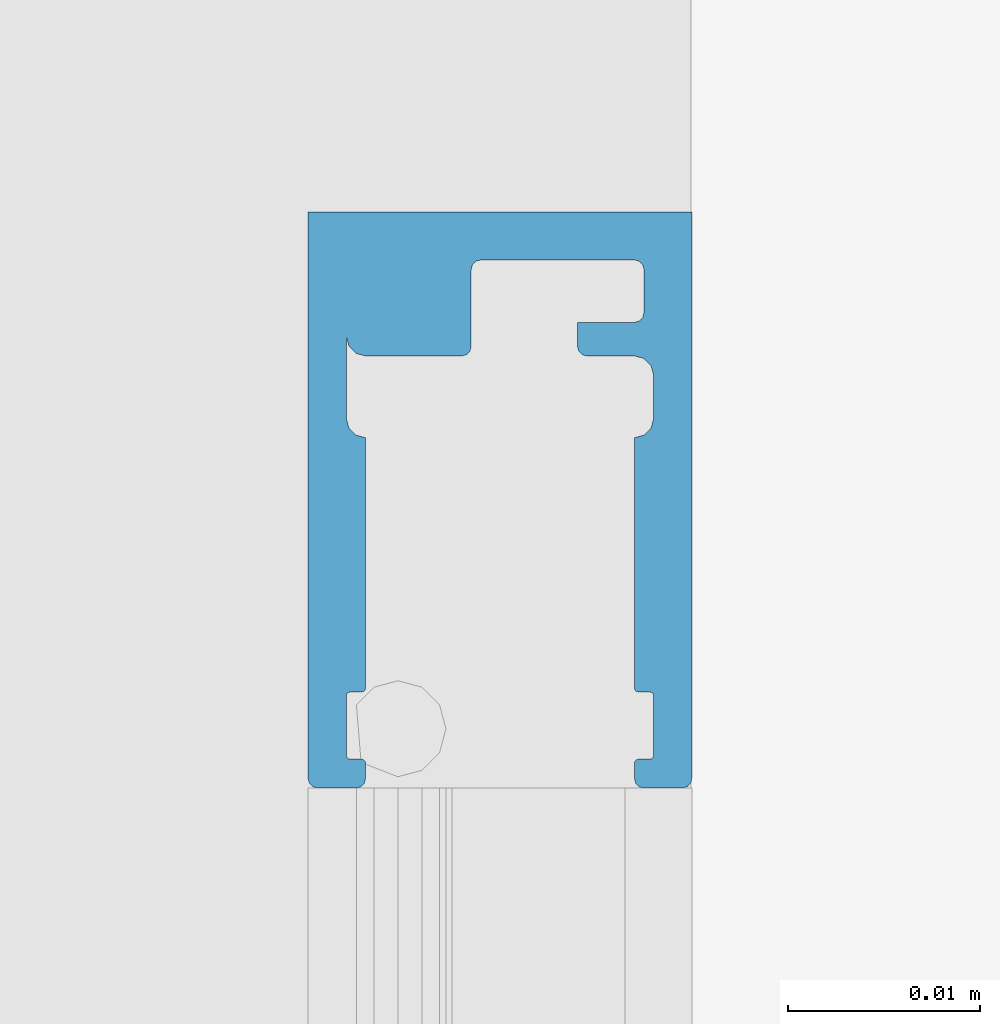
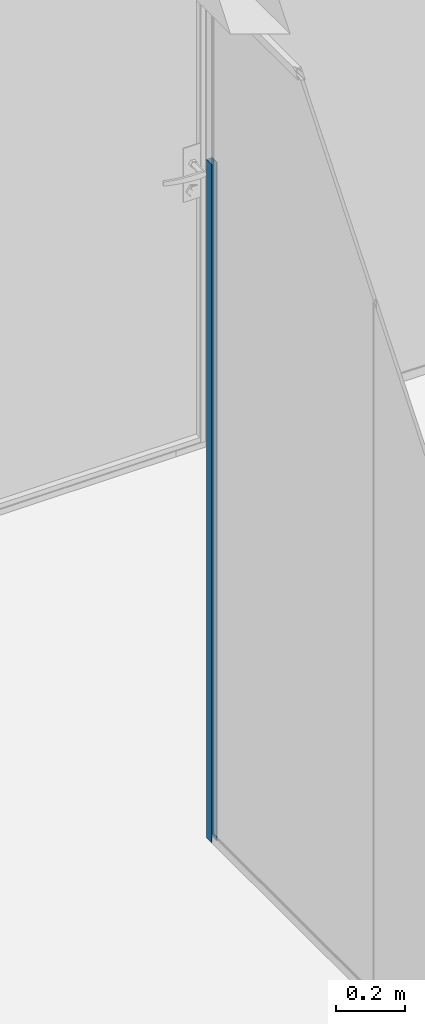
# One storey, part 54 of 387: 1 building element part, 2 elements without a shape of their own.
"""IFC2X3 building model written with IfcOpenShell, lengths in millimetres."""

from ifc_helpers import new_model, entity, si_unit, converted_unit, derived_unit, money_unit, direction, frame, origin_with_axes, place, context, subcontext, project, spatial, faceted_brep, source, transform, mapped, material, type_object, element, aggregate, save


model = new_model("IFC2X3")

# Units and contexts
model_context = context("Model", 3, precision=0.01, world=origin_with_axes(), true_north=direction((0.0, 1.0)))
body_context = subcontext(model_context, "Body", "Model", "MODEL_VIEW")
ifc_project = project(units=[si_unit("LENGTHUNIT", "METRE", prefix="MILLI"), si_unit("AREAUNIT", "SQUARE_METRE"), si_unit("VOLUMEUNIT", "CUBIC_METRE"), converted_unit("PLANEANGLEUNIT", "DEGREE", entity("IfcPlaneAngleMeasure", 0.0174532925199), si_unit("PLANEANGLEUNIT", "RADIAN"), dimensions=[0, 0, 0, 0, 0, 0, 0]), si_unit("SOLIDANGLEUNIT", "STERADIAN"), money_unit("EUR"), converted_unit("TIMEUNIT", "Year", entity("IfcTimeMeasure", 31556926.0), si_unit("TIMEUNIT", "SECOND"), dimensions=[0, 0, 1, 0, 0, 0, 0]), si_unit("MASSUNIT", "GRAM", prefix="KILO"), si_unit("THERMODYNAMICTEMPERATUREUNIT", "DEGREE_CELSIUS"), si_unit("LUMINOUSINTENSITYUNIT", "LUMEN"), si_unit("ENERGYUNIT", "JOULE", prefix="MEGA"), derived_unit("THERMALCONDUCTANCEUNIT", [(si_unit("POWERUNIT", "WATT"), 1), (si_unit("LENGTHUNIT", "METRE"), -1), (si_unit("THERMODYNAMICTEMPERATUREUNIT", "KELVIN"), -1)]), derived_unit("SPECIFICHEATCAPACITYUNIT", [(si_unit("ENERGYUNIT", "JOULE"), 1), (si_unit("MASSUNIT", "GRAM", prefix="KILO"), -1), (si_unit("THERMODYNAMICTEMPERATUREUNIT", "KELVIN"), -1)]), derived_unit("MASSDENSITYUNIT", [(si_unit("MASSUNIT", "GRAM", prefix="KILO"), 1), (si_unit("VOLUMEUNIT", "CUBIC_METRE"), -1)])], contexts=[model_context])

# Site, building, storey
site_placement = place(None, origin_with_axes())
site = spatial("IfcSite", under=ifc_project, at=site_placement, Name="Puškini 31, Narva", CompositionType="ELEMENT")
building_placement = place(site_placement, origin_with_axes())
building = spatial("IfcBuilding", under=site, at=building_placement, Name="Narva Riigigümnaasium", CompositionType="ELEMENT")
storey_placement = place(building_placement, frame((0.0, 0.0, 2640.0), z_axis=(0.0, 0.0, 1.0), x_axis=(1.0, 0.0, 0.0)))
storey = spatial("IfcBuildingStorey", under=building, at=storey_placement, Name="2.korrus +2.64", CompositionType="ELEMENT", Elevation=2640.0)

# Curtain wall, member, building element part
curtain_wall_type = type_object("IfcCurtainWallType", Name="Curtain Wall Type", PredefinedType="NOTDEFINED")
curtain_wall_placement = place(storey_placement, frame((28389.9972784, 170114.499914, -5.2224053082e-05), z_axis=(0.0, 0.0, 1.0), x_axis=(1.0, 0.0, 0.0)))
curtain_wall = element("IfcCurtainWall", 1, at=curtain_wall_placement, inside=storey, type_object=curtain_wall_type, Name="G-SKLF-15.2")
member_type = type_object("IfcMemberType", Name="Boundary Frame 30 x 10", PredefinedType="MULLION")
member_placement = place(curtain_wall_placement, frame((4.30731006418e-08, 1615.50017198, 0.0), z_axis=(0.0, -6.81473233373e-09, 1.0), x_axis=(0.0, -1.0, -6.81473233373e-09)))
member = element("IfcMember", 2, at=member_placement, type_object=member_type, Name="G-SKLF-98-raam", ObjectType="MULLION")
aggregate(curtain_wall, [member])
ifc_material = material(Name="ET-04_Alumiinium")
shared_shape = source(origin_with_axes(), body_context, "Body", "Brep", [
    faceted_brep([(0.0, 9.99999999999, -4.10349964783e-07), (0.0, 9.99999999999, 2400.00005222), (0.0, -9.99999999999, 2400.00005222), (0.0, -9.99999999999, -4.10349964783e-07), (-29.5, 10.0, -4.10349964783e-07), (-29.5, 10.0, 2400.00005222), (-29.75, 9.93301270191, 2400.00005222), (-29.9330127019, 9.75000000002, 2400.00005222), (-30.0, 9.5, 2400.00005222), (-30.0, 7.49999999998, 2400.00005222), (-29.9330127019, 7.24999999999, 2400.00005222), (-29.75, 7.06698729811, 2400.00005222), (-29.5, 7.00000000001, 2400.00005222), (-28.7609519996, 6.99999999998, 2400.00005222), (-28.7, 6.99999999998, 2400.00005222), (-28.6, 7.02679491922, 2400.00005222), (-28.5267949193, 7.09999999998, 2400.00005222), (-28.5, 7.19999999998, 2400.00005222), (-28.5, 7.24760028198, 2400.00005222), (-28.5, 7.76282847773, 2400.00005222), (-28.4849473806, 7.87744178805, 2400.00005222), (-28.4104265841, 7.9658128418, 2400.00005222), (-28.3, 8.00000000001, 2400.00005222), (-25.2, 8.00000000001, 2400.00005222), (-25.1, 7.97320508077, 2400.00005222), (-25.0267949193, 7.90000000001, 2400.00005222), (-25.0, 7.8, 2400.00005222), (-25.0, 7.20000000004, 2400.00005222), (-24.9732050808, 7.10000000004, 2400.00005222), (-24.9, 7.02679491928, 2400.00005222), (-24.8, 7.00000000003, 2400.00005222), (-11.7527616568, 6.99999999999, 2400.00005222), (-11.6187870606, 7.49999999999, 2400.00005222), (-11.2527616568, 7.86602540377, 2400.00005222), (-10.7527616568, 7.99999999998, 2400.00005222), (-6.49999999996, 7.99999999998, 2400.00005222), (-6.99999999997, 7.86602540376, 2400.00005222), (-7.36602540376, 7.49999999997, 2400.00005222), (-7.49999999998, 6.99999999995, 2400.00005222), (-7.49999999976, 2.00000000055, 2400.00005222), (-7.43301270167, 1.75000000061, 2400.00005222), (-7.24999999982, 1.56698729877, 2400.00005222), (-6.99999999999, 1.50000000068, 2400.00005222), (-2.99998847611, 1.50000000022, 2400.00005222), (-2.75096907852, 1.43357737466, 2400.00005222), (-2.56811176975, 1.25195735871, 2400.00005222), (-2.5, 1.00339466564, 2400.00005222), (-2.5, -6.99999999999, 2400.00005222), (-2.56698729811, -7.24999999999, 2400.00005222), (-2.75, -7.43301270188, 2400.00005222), (-3.0, -7.49999999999, 2400.00005222), (-5.24723834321, -7.49999999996, 2400.00005222), (-5.49723834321, -7.43301270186, 2400.00005222), (-5.6802510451, -7.24999999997, 2400.00005222), (-5.7472383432, -6.99999999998, 2400.00005222), (-5.74723834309, -4.03369212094, 2400.00005222), (-7.0, -4.03369212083, 2400.00005222), (-7.24999999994, -4.10067941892, 2400.00005222), (-7.43301270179, -4.28369212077, 2400.00005222), (-7.49999999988, -4.5336921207, 2400.00005222), (-7.49999999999, -7.00000000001, 2400.00005222), (-7.63397459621, -7.50000000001, 2400.00005222), (-7.99999999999, -7.86602540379, 2400.00005222), (-8.49999999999, -8.00000000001, 2400.00005222), (-10.7527616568, -7.99999999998, 2400.00005222), (-11.2527616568, -7.86602540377, 2400.00005222), (-11.6187870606, -7.49999999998, 2400.00005222), (-11.7527616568, -6.99999999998, 2400.00005222), (-24.8, -7.00000000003, 2400.00005222), (-24.9, -7.02679491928, 2400.00005222), (-24.9732050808, -7.10000000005, 2400.00005222), (-25.0, -7.20000000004, 2400.00005222), (-25.0, -7.79999999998, 2400.00005222), (-25.0267949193, -7.89999999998, 2400.00005222), (-25.1, -7.97320508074, 2400.00005222), (-25.2, -7.99999999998, 2400.00005222), (-28.3, -7.99999999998, 2400.00005222), (-28.4, -7.97320508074, 2400.00005222), (-28.4732050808, -7.89999999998, 2400.00005222), (-28.5, -7.79999999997, 2400.00005222), (-28.5, -7.19999999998, 2400.00005222), (-28.5267949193, -7.09999999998, 2400.00005222), (-28.6, -7.02679491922, 2400.00005222), (-28.7, -6.99999999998, 2400.00005222), (-29.5, -6.99999999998, 2400.00005222), (-29.75, -7.06698729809, 2400.00005222), (-29.9330127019, -7.24999999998, 2400.00005222), (-30.0, -7.49999999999, 2400.00005222), (-30.0, -9.5, 2400.00005222), (-29.9224245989, -9.76651288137, 2400.00005222), (-29.7157683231, -9.95182408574, 2400.00005222), (-29.4424074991, -9.99999999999, 2400.00005222), (-29.4424074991, -9.99999999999, -4.10349964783e-07), (-29.7157683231, -9.95182408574, -4.10349964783e-07), (-29.9224245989, -9.76651288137, -4.10349964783e-07), (-30.0, -9.5, -4.10349964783e-07), (-30.0, -7.49999999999, -4.10349964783e-07), (-29.9330127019, -7.24999999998, -4.10349964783e-07), (-29.75, -7.06698729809, -4.10349964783e-07), (-29.5, -6.99999999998, -4.10349964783e-07), (-28.7, -6.99999999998, -4.10349964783e-07), (-28.6, -7.02679491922, -4.10349964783e-07), (-28.5267949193, -7.09999999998, -4.10349964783e-07), (-28.5, -7.19999999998, -4.10349964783e-07), (-28.5, -7.79999999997, -4.10349964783e-07), (-28.4732050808, -7.89999999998, -4.10349964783e-07), (-28.4, -7.97320508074, -4.10349964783e-07), (-28.3, -7.99999999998, -4.10349964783e-07), (-25.2, -7.99999999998, -4.10349964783e-07), (-25.1, -7.97320508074, -4.10349964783e-07), (-25.0267949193, -7.89999999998, -4.10349964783e-07), (-25.0, -7.79999999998, -4.10349964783e-07), (-25.0, -7.20000000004, -4.10349964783e-07), (-24.9732050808, -7.10000000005, -4.10349964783e-07), (-24.9, -7.02679491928, -4.10349964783e-07), (-24.8, -7.00000000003, -4.10349964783e-07), (-11.7527616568, -6.99999999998, -4.10349964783e-07), (-11.6187870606, -7.49999999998, -4.10349964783e-07), (-11.2527616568, -7.86602540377, -4.10349964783e-07), (-10.7527616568, -7.99999999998, -4.10349964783e-07), (-8.49999999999, -8.00000000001, -4.10349964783e-07), (-7.99999999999, -7.86602540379, -4.10349964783e-07), (-7.63397459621, -7.50000000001, -4.10349964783e-07), (-7.49999999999, -7.00000000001, -4.10349964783e-07), (-7.49999999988, -4.5336921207, -4.10349964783e-07), (-7.43301270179, -4.28369212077, -4.10349964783e-07), (-7.24999999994, -4.10067941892, -4.10349964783e-07), (-7.0, -4.03369212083, -4.10349964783e-07), (-5.74723834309, -4.03369212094, -4.10349964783e-07), (-5.7472383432, -6.99999999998, -4.10349964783e-07), (-5.6802510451, -7.24999999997, -4.10349964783e-07), (-5.49723834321, -7.43301270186, -4.10349964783e-07), (-5.24723834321, -7.49999999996, -4.10349964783e-07), (-3.0, -7.49999999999, -4.10349964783e-07), (-2.75, -7.43301270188, -4.10349964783e-07), (-2.56698729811, -7.24999999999, -4.10349964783e-07), (-2.5, -6.99999999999, -4.10349964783e-07), (-2.5, 1.00339466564, -4.10349964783e-07), (-2.56811176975, 1.25195735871, -4.10349964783e-07), (-2.75096907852, 1.43357737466, -4.10349964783e-07), (-2.99998847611, 1.50000000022, -4.10349964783e-07), (-6.99999999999, 1.50000000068, -4.10349964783e-07), (-7.24999999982, 1.56698729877, -4.10349964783e-07), (-7.43301270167, 1.75000000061, -4.10349964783e-07), (-7.49999999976, 2.00000000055, -4.10349964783e-07), (-7.49999999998, 6.99999999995, -4.10349964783e-07), (-7.36602540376, 7.49999999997, -4.10349964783e-07), (-6.99999999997, 7.86602540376, -4.10349964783e-07), (-6.49999999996, 7.99999999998, -4.10349964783e-07), (-10.7527616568, 7.99999999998, -4.10349964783e-07), (-11.2527616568, 7.86602540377, -4.10349964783e-07), (-11.6187870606, 7.49999999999, -4.10349964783e-07), (-11.7527616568, 6.99999999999, -4.10349964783e-07), (-24.8, 7.00000000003, -4.10349964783e-07), (-24.9, 7.02679491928, -4.10349964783e-07), (-24.9732050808, 7.10000000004, -4.10349964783e-07), (-25.0, 7.20000000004, -4.10349964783e-07), (-25.0, 7.8, -4.10349964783e-07), (-25.0267949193, 7.90000000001, -4.10349964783e-07), (-25.1, 7.97320508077, -4.10349964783e-07), (-25.2, 8.00000000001, -4.10349964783e-07), (-28.3, 8.00000000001, -4.10349964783e-07), (-28.4104265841, 7.9658128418, -4.10349964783e-07), (-28.4849473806, 7.87744178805, -4.10349964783e-07), (-28.5, 7.76282847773, -4.10349964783e-07), (-28.5, 7.24760028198, -4.10349964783e-07), (-28.5, 7.19999999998, -4.10349964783e-07), (-28.5267949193, 7.09999999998, -4.10349964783e-07), (-28.6, 7.02679491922, -4.10349964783e-07), (-28.7, 6.99999999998, -4.10349964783e-07), (-28.7609519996, 6.99999999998, -4.10349964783e-07), (-29.5, 7.00000000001, -4.10349964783e-07), (-29.75, 7.06698729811, -4.10349964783e-07), (-29.9330127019, 7.24999999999, -4.10349964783e-07), (-30.0, 7.49999999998, -4.10349964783e-07), (-30.0, 9.5, -4.10349964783e-07), (-29.9330127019, 9.75000000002, -4.10349964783e-07), (-29.75, 9.93301270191, -4.10349964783e-07)], [[[0, 1, 2, 3]], [[4, 5, 1, 0]], [[1, 5, 6, 7, 8, 9, 10, 11, 12, 13, 14, 15, 16, 17, 18, 19, 20, 21, 22, 23, 24, 25, 26, 27, 28, 29, 30, 31, 32, 33, 34, 35, 36, 37, 38, 39, 40, 41, 42, 43, 44, 45, 46, 47, 48, 49, 50, 51, 52, 53, 54, 55, 56, 57, 58, 59, 60, 61, 62, 63, 64, 65, 66, 67, 68, 69, 70, 71, 72, 73, 74, 75, 76, 77, 78, 79, 80, 81, 82, 83, 84, 85, 86, 87, 88, 89, 90, 91, 2]], [[3, 2, 91, 92]], [[0, 3, 92, 93, 94, 95, 96, 97, 98, 99, 100, 101, 102, 103, 104, 105, 106, 107, 108, 109, 110, 111, 112, 113, 114, 115, 116, 117, 118, 119, 120, 121, 122, 123, 124, 125, 126, 127, 128, 129, 130, 131, 132, 133, 134, 135, 136, 137, 138, 139, 140, 141, 142, 143, 144, 145, 146, 147, 148, 149, 150, 151, 152, 153, 154, 155, 156, 157, 158, 159, 160, 161, 162, 163, 164, 165, 166, 167, 168, 169, 170, 171, 172, 173, 174, 175, 176, 177, 4]], [[177, 6, 5, 4]], [[176, 7, 6, 177]], [[175, 8, 7, 176]], [[174, 9, 8, 175]], [[173, 10, 9, 174]], [[172, 11, 10, 173]], [[171, 12, 11, 172]], [[170, 13, 12, 171]], [[169, 14, 13, 170]], [[168, 15, 14, 169]], [[167, 16, 15, 168]], [[166, 17, 16, 167]], [[165, 18, 17, 166]], [[164, 19, 18, 165]], [[163, 20, 19, 164]], [[162, 21, 20, 163]], [[161, 22, 21, 162]], [[160, 23, 22, 161]], [[159, 24, 23, 160]], [[158, 25, 24, 159]], [[157, 26, 25, 158]], [[156, 27, 26, 157]], [[155, 28, 27, 156]], [[154, 29, 28, 155]], [[153, 30, 29, 154]], [[152, 31, 30, 153]], [[151, 32, 31, 152]], [[150, 33, 32, 151]], [[149, 34, 33, 150]], [[148, 35, 34, 149]], [[147, 36, 35, 148]], [[146, 37, 36, 147]], [[145, 38, 37, 146]], [[144, 39, 38, 145]], [[143, 40, 39, 144]], [[142, 41, 40, 143]], [[141, 42, 41, 142]], [[140, 43, 42, 141]], [[139, 44, 43, 140]], [[138, 45, 44, 139]], [[137, 46, 45, 138]], [[136, 47, 46, 137]], [[135, 48, 47, 136]], [[134, 49, 48, 135]], [[133, 50, 49, 134]], [[132, 51, 50, 133]], [[131, 52, 51, 132]], [[130, 53, 52, 131]], [[129, 54, 53, 130]], [[128, 55, 54, 129]], [[127, 56, 55, 128]], [[126, 57, 56, 127]], [[125, 58, 57, 126]], [[124, 59, 58, 125]], [[123, 60, 59, 124]], [[122, 61, 60, 123]], [[121, 62, 61, 122]], [[120, 63, 62, 121]], [[119, 64, 63, 120]], [[118, 65, 64, 119]], [[117, 66, 65, 118]], [[116, 67, 66, 117]], [[115, 68, 67, 116]], [[114, 69, 68, 115]], [[113, 70, 69, 114]], [[112, 71, 70, 113]], [[111, 72, 71, 112]], [[110, 73, 72, 111]], [[109, 74, 73, 110]], [[108, 75, 74, 109]], [[107, 76, 75, 108]], [[106, 77, 76, 107]], [[105, 78, 77, 106]], [[104, 79, 78, 105]], [[103, 80, 79, 104]], [[102, 81, 80, 103]], [[101, 82, 81, 102]], [[100, 83, 82, 101]], [[99, 84, 83, 100]], [[98, 85, 84, 99]], [[97, 86, 85, 98]], [[96, 87, 86, 97]], [[95, 88, 87, 96]], [[94, 89, 88, 95]], [[93, 90, 89, 94]], [[92, 91, 90, 93]]]),
])
building_element_part_placement = place(member_placement, origin_with_axes())
building_element_part = element("IfcBuildingElementPart", 3, at=building_element_part_placement, material=ifc_material, Name="ET-04_Alumiinium", context=body_context, shape_type="MappedRepresentation", body=[
    mapped(shared_shape, transform((0.0, 0.0, 0.0), x_axis=(-1.0, 0.0, -6.81473233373e-09), y_axis=(0.0, -1.0, 0.0), z_axis=(-6.81473233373e-09, 0.0, 1.0))),
])
aggregate(member, [building_element_part])

save(model, "model.ifc")
